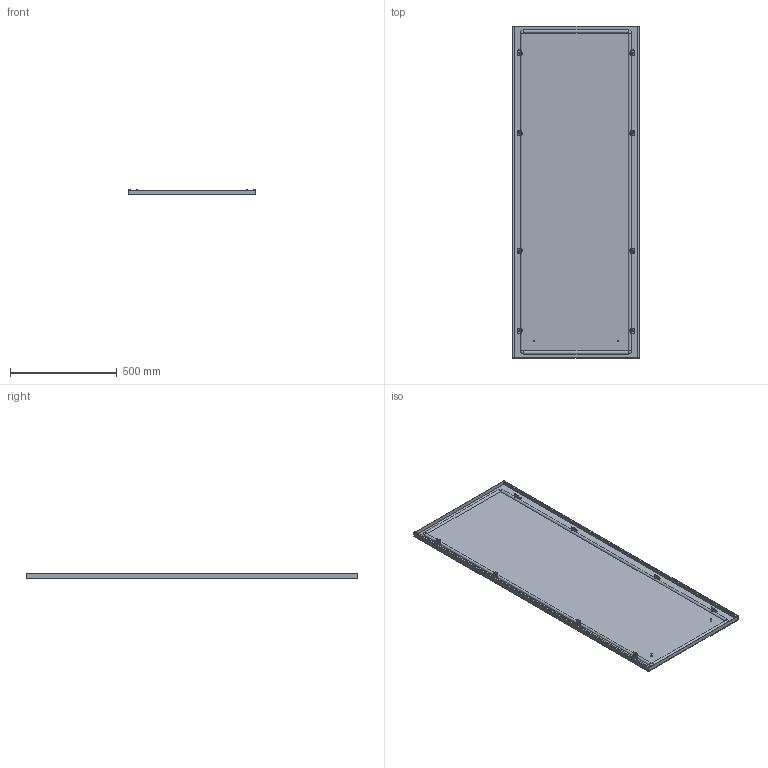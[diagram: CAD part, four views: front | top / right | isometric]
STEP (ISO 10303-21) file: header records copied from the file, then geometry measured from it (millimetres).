
FILE_DESCRIPTION(('Open CASCADE Model'),'2;1');
FILE_NAME('Open CASCADE Shape Model','2025-02-07T16:30:51',('Author'),( 'Open CASCADE'),'Open CASCADE STEP processor 7.8','Open CASCADE 7.8' ,'Unknown');
FILE_SCHEMA(('AUTOMOTIVE_DESIGN { 1 0 10303 214 1 1 1 1 }'));
Length unit declared in the file: millimetre
Products named in the file (10): Compound1; Compound2; Compound3; Solid1; Solid2; Solid3; Solid4; Solid5; Solid6; Solid7
Assembly tree (40 placements, depth 4):
  Compound1
    Compound2
      Compound3
        Solid1
        Solid2  x4
      Solid3
    Solid4  x8
    Solid5  x8
    Solid6  x8
    Solid7  x8
Bounding box: 594 x 1555 x 23.8 mm (x, y, z)
Volume: 1928212.3 mm3; surface area: 2264212.5 mm2
Topology: 38 solids, 38 shells, 1655 faces, 4040 edges, 2460 vertices
Faces by surface type: plane 1043, cone 308, cylinder 268, torus 25, bspline 8, revolution 3
Full cylindrical faces by diameter (mm): 5 x16, 6 x132, 7.5 x4, 8 x16, 10 x8, 11.57 x8
Entity records: 7823 total; most frequent: CARTESIAN_POINT 1513, DIRECTION 1262, ORIENTED_EDGE 1244, EDGE_CURVE 622, AXIS2_PLACEMENT_3D 425, LINE 409, VECTOR 409, VERTEX_POINT 387
